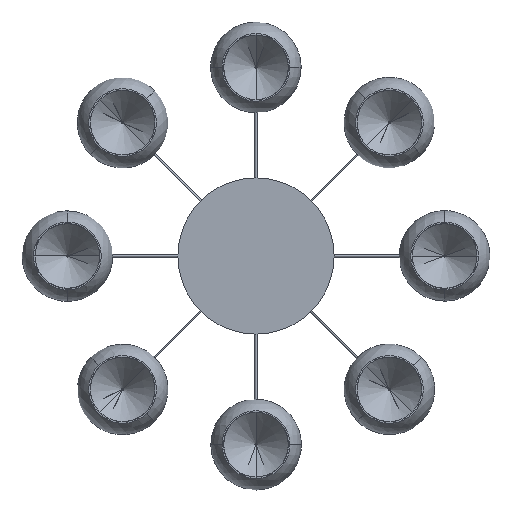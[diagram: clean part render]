
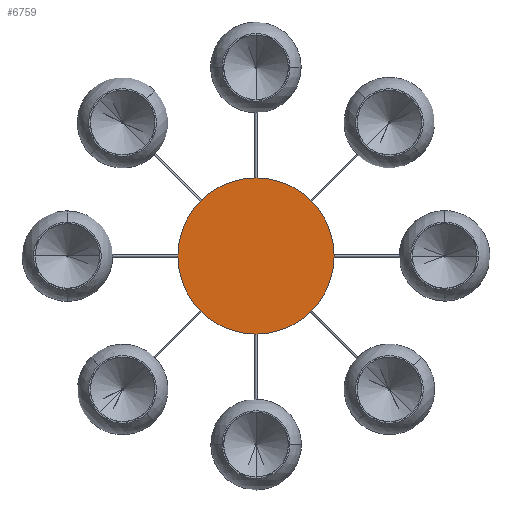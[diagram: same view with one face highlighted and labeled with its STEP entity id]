
A CAD part, front view. The second image highlights one B-rep face of the part: STEP entity #6759.
In plain terms, the highlighted planar face has unit normal (0, -1, 0).
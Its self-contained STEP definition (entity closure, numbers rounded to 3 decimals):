
#274 = ORIENTED_EDGE ( 'NONE', *, *, #1070, .F. ) ;
#1070 = EDGE_CURVE ( 'NONE', #5938, #5856, #6134, .T. ) ;
#1444 = CARTESIAN_POINT ( 'NONE',  ( 0., 0., 0. ) ) ;
#1445 = CIRCLE ( 'NONE', #3158, 155. ) ;
#1508 = DIRECTION ( 'NONE',  ( 0., 1., 0. ) ) ;
#2022 = DIRECTION ( 'NONE',  ( 0., 1., 0. ) ) ;
#2560 = FACE_OUTER_BOUND ( 'NONE', #5907, .T. ) ;
#3158 = AXIS2_PLACEMENT_3D ( 'NONE', #1444, #6133, #3663 ) ;
#3184 = AXIS2_PLACEMENT_3D ( 'NONE', #5498, #2022, #3911 ) ;
#3663 = DIRECTION ( 'NONE',  ( 0., 0., 1. ) ) ;
#3741 = PLANE ( 'NONE',  #5844 ) ;
#3911 = DIRECTION ( 'NONE',  ( 0., 0., 1. ) ) ;
#4427 = ORIENTED_EDGE ( 'NONE', *, *, #4664, .F. ) ;
#4664 = EDGE_CURVE ( 'NONE', #5856, #5938, #1445, .T. ) ;
#5007 = CARTESIAN_POINT ( 'NONE',  ( 0., 0., 155. ) ) ;
#5498 = CARTESIAN_POINT ( 'NONE',  ( 0., 0., 0. ) ) ;
#5844 = AXIS2_PLACEMENT_3D ( 'NONE', #6165, #1508, #6094 ) ;
#5856 = VERTEX_POINT ( 'NONE', #7121 ) ;
#5907 = EDGE_LOOP ( 'NONE', ( #4427, #274 ) ) ;
#5938 = VERTEX_POINT ( 'NONE', #5007 ) ;
#6094 = DIRECTION ( 'NONE',  ( 0., 0., 1. ) ) ;
#6133 = DIRECTION ( 'NONE',  ( 0., 1., 0. ) ) ;
#6134 = CIRCLE ( 'NONE', #3184, 155. ) ;
#6165 = CARTESIAN_POINT ( 'NONE',  ( 0., 0., 0. ) ) ;
#6759 = ADVANCED_FACE ( 'NONE', ( #2560 ), #3741, .F. ) ;
#7121 = CARTESIAN_POINT ( 'NONE',  ( 0., 0., -155. ) ) ;
